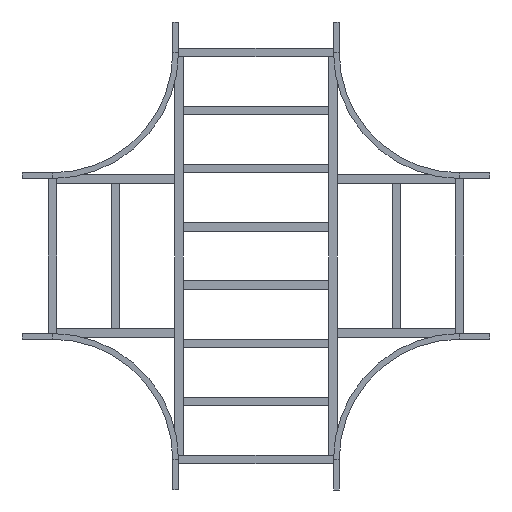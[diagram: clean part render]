
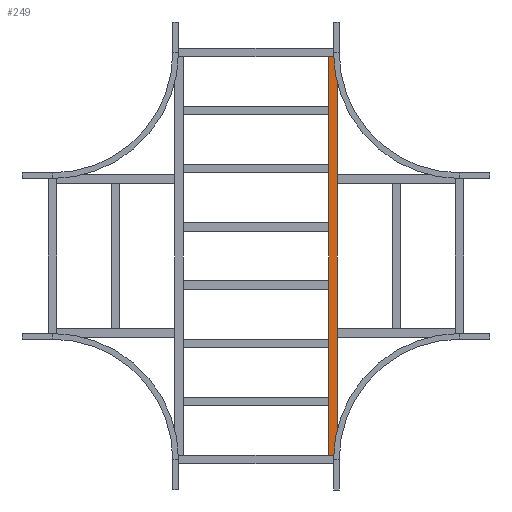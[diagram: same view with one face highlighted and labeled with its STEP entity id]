
A CAD part, front view. The second image highlights one B-rep face of the part: STEP entity #249.
In plain terms, the highlighted planar face has unit normal (0, -1, 0).
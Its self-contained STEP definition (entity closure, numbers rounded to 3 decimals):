
#15 = VERTEX_POINT ( 'NONE', #1662 ) ;
#88 = DIRECTION ( 'NONE',  ( 0., 0., 1. ) ) ;
#249 = ADVANCED_FACE ( 'NONE', ( #1854 ), #1079, .F. ) ;
#257 = EDGE_CURVE ( 'NONE', #1441, #2491, #1560, .T. ) ;
#398 = ORIENTED_EDGE ( 'NONE', *, *, #257, .T. ) ;
#453 = ORIENTED_EDGE ( 'NONE', *, *, #2017, .F. ) ;
#461 = CARTESIAN_POINT ( 'NONE',  ( -979.75, 0., 20.25 ) ) ;
#551 = EDGE_CURVE ( 'NONE', #2491, #15, #2098, .T. ) ;
#637 = LINE ( 'NONE', #702, #2516 ) ;
#695 = EDGE_CURVE ( 'NONE', #1441, #2589, #637, .T. ) ;
#702 = CARTESIAN_POINT ( 'NONE',  ( 979.75, 0., 20.25 ) ) ;
#809 = ORIENTED_EDGE ( 'NONE', *, *, #551, .T. ) ;
#908 = DIRECTION ( 'NONE',  ( -1., 0., 0. ) ) ;
#1010 = DIRECTION ( 'NONE',  ( 0., 0., -1. ) ) ;
#1060 = DIRECTION ( 'NONE',  ( 0., 1., 0. ) ) ;
#1079 = PLANE ( 'NONE',  #1526 ) ;
#1441 = VERTEX_POINT ( 'NONE', #2043 ) ;
#1526 = AXIS2_PLACEMENT_3D ( 'NONE', #3109, #1060, #88 ) ;
#1560 = LINE ( 'NONE', #1824, #1991 ) ;
#1662 = CARTESIAN_POINT ( 'NONE',  ( -979.75, 0., -20.25 ) ) ;
#1663 = LINE ( 'NONE', #2414, #1971 ) ;
#1814 = DIRECTION ( 'NONE',  ( 0., 0., -1. ) ) ;
#1824 = CARTESIAN_POINT ( 'NONE',  ( 979.75, 0., 20.25 ) ) ;
#1854 = FACE_OUTER_BOUND ( 'NONE', #2799, .T. ) ;
#1909 = VECTOR ( 'NONE', #1814, 1000. ) ;
#1971 = VECTOR ( 'NONE', #908, 1000. ) ;
#1991 = VECTOR ( 'NONE', #2811, 1000. ) ;
#2017 = EDGE_CURVE ( 'NONE', #2589, #15, #1663, .T. ) ;
#2043 = CARTESIAN_POINT ( 'NONE',  ( 979.75, 0., 20.25 ) ) ;
#2045 = CARTESIAN_POINT ( 'NONE',  ( -979.75, 0., 20.25 ) ) ;
#2057 = CARTESIAN_POINT ( 'NONE',  ( 979.75, 0., -20.25 ) ) ;
#2098 = LINE ( 'NONE', #2045, #1909 ) ;
#2199 = ORIENTED_EDGE ( 'NONE', *, *, #695, .F. ) ;
#2414 = CARTESIAN_POINT ( 'NONE',  ( 979.75, 0., -20.25 ) ) ;
#2491 = VERTEX_POINT ( 'NONE', #461 ) ;
#2516 = VECTOR ( 'NONE', #1010, 1000. ) ;
#2589 = VERTEX_POINT ( 'NONE', #2057 ) ;
#2799 = EDGE_LOOP ( 'NONE', ( #809, #453, #2199, #398 ) ) ;
#2811 = DIRECTION ( 'NONE',  ( -1., 0., 0. ) ) ;
#3109 = CARTESIAN_POINT ( 'NONE',  ( 979.75, 0., 20.25 ) ) ;
